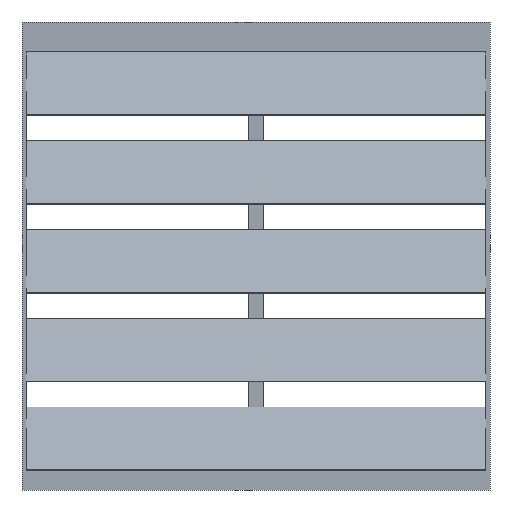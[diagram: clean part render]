
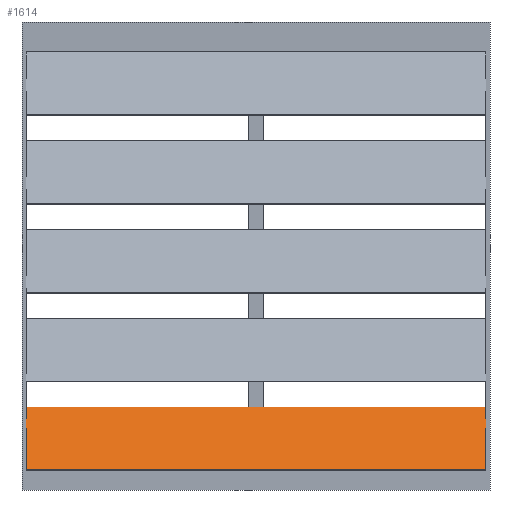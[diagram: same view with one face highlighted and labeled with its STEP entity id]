
A CAD part, front view. The second image highlights one B-rep face of the part: STEP entity #1614.
In plain terms, the highlighted planar face has unit normal (0, -0.707, 0.707).
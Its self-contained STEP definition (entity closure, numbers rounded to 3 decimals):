
#68=FACE_OUTER_BOUND('',#144,.T.);
#144=EDGE_LOOP('',(#1076,#1077,#1078,#1079,#1080,#1081,#1082,#1083));
#236=LINE('',#2247,#451);
#240=LINE('',#2254,#455);
#242=LINE('',#2259,#457);
#246=LINE('',#2266,#461);
#247=LINE('',#2268,#462);
#248=LINE('',#2270,#463);
#249=LINE('',#2271,#464);
#250=LINE('',#2272,#465);
#451=VECTOR('',#1813,10.);
#455=VECTOR('',#1819,10.);
#457=VECTOR('',#1823,10.);
#461=VECTOR('',#1829,10.);
#462=VECTOR('',#1832,10.);
#463=VECTOR('',#1835,10.);
#464=VECTOR('',#1836,10.);
#465=VECTOR('',#1837,10.);
#665=VERTEX_POINT('',#2244);
#666=VERTEX_POINT('',#2246);
#667=VERTEX_POINT('',#2250);
#668=VERTEX_POINT('',#2252);
#669=VERTEX_POINT('',#2256);
#670=VERTEX_POINT('',#2258);
#671=VERTEX_POINT('',#2262);
#672=VERTEX_POINT('',#2264);
#814=EDGE_CURVE('',#666,#665,#236,.T.);
#818=EDGE_CURVE('',#667,#668,#240,.T.);
#820=EDGE_CURVE('',#670,#669,#242,.T.);
#824=EDGE_CURVE('',#671,#672,#246,.T.);
#825=EDGE_CURVE('',#668,#670,#247,.T.);
#826=EDGE_CURVE('',#666,#669,#248,.T.);
#827=EDGE_CURVE('',#671,#665,#249,.T.);
#828=EDGE_CURVE('',#667,#672,#250,.T.);
#1076=ORIENTED_EDGE('',*,*,#825,.T.);
#1077=ORIENTED_EDGE('',*,*,#820,.T.);
#1078=ORIENTED_EDGE('',*,*,#826,.F.);
#1079=ORIENTED_EDGE('',*,*,#814,.T.);
#1080=ORIENTED_EDGE('',*,*,#827,.F.);
#1081=ORIENTED_EDGE('',*,*,#824,.T.);
#1082=ORIENTED_EDGE('',*,*,#828,.F.);
#1083=ORIENTED_EDGE('',*,*,#818,.T.);
#1546=PLANE('',#1698);
#1614=ADVANCED_FACE('',(#68),#1546,.T.);
#1698=AXIS2_PLACEMENT_3D('',#2269,#1833,#1834);
#1813=DIRECTION('',(-1.,0.,0.));
#1819=DIRECTION('',(0.,-0.707,-0.707));
#1823=DIRECTION('',(0.,0.707,0.707));
#1829=DIRECTION('',(-1.,0.,0.));
#1832=DIRECTION('',(1.,0.,0.));
#1833=DIRECTION('center_axis',(0.,-0.707,
0.707));
#1834=DIRECTION('ref_axis',(1.,0.,0.));
#1835=DIRECTION('',(0.,-0.707,-0.707));
#1836=DIRECTION('',(1.,0.,0.));
#1837=DIRECTION('',(0.,0.707,0.707));
#2244=CARTESIAN_POINT('',(13.083,0.,-253.5));
#2246=CARTESIAN_POINT('',(385.5,0.,-253.5));
#2247=CARTESIAN_POINT('',(385.5,0.,-253.5));
#2250=CARTESIAN_POINT('',(-385.5,-20.,-273.5));
#2252=CARTESIAN_POINT('',(-385.5,-105.359,-358.859));
#2254=CARTESIAN_POINT('',(-385.5,0.,-253.5));
#2256=CARTESIAN_POINT('',(385.5,-20.,-273.5));
#2258=CARTESIAN_POINT('',(385.5,-105.359,-358.859));
#2259=CARTESIAN_POINT('',(385.5,-105.359,-358.859));
#2262=CARTESIAN_POINT('',(-13.083,0.,-253.5));
#2264=CARTESIAN_POINT('',(-385.5,0.,-253.5));
#2266=CARTESIAN_POINT('',(385.5,0.,-253.5));
#2268=CARTESIAN_POINT('',(-385.5,-105.359,-358.859));
#2269=CARTESIAN_POINT('Origin',(0.,-52.679,
-306.179));
#2270=CARTESIAN_POINT('',(385.5,117.66,-135.84));
#2271=CARTESIAN_POINT('',(-199.292,0.,-253.5));
#2272=CARTESIAN_POINT('',(-385.5,-53.59,-307.09));
